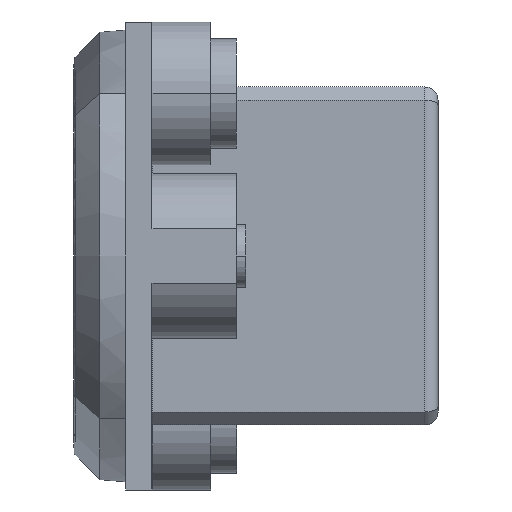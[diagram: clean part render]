
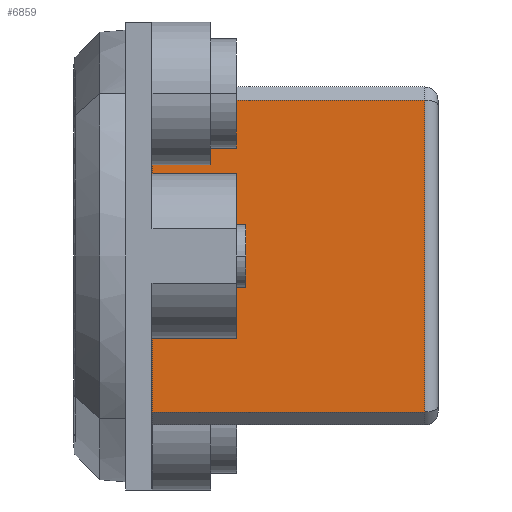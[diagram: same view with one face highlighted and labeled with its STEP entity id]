
A CAD part, left-side view. The second image highlights one B-rep face of the part: STEP entity #6859.
In plain terms, the highlighted planar face has unit normal (-1, 0, 0).
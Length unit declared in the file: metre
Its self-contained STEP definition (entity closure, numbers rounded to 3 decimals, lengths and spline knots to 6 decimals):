
#2388=DIRECTION('',(0.,1.,0.));
#2389=VECTOR('',#2388,0.021);
#2390=CARTESIAN_POINT('',(-0.0245,-0.027,-0.012));
#2391=LINE('',#2390,#2389);
#2392=DIRECTION('',(0.,0.,1.));
#2393=VECTOR('',#2392,0.024);
#2394=CARTESIAN_POINT('',(-0.0245,-0.006,-0.012));
#2395=LINE('',#2394,#2393);
#2396=DIRECTION('',(0.,-1.,0.));
#2397=VECTOR('',#2396,0.021);
#2398=CARTESIAN_POINT('',(-0.0245,-0.006,0.012));
#2399=LINE('',#2398,#2397);
#2454=DIRECTION('',(0.,0.,1.));
#2455=VECTOR('',#2454,0.024);
#2456=CARTESIAN_POINT('',(-0.0245,-0.027,-0.012));
#2457=LINE('',#2456,#2455);
#3486=CARTESIAN_POINT('',(-0.0245,-0.027,-0.012));
#3487=VERTEX_POINT('',#3486);
#3519=CARTESIAN_POINT('',(-0.0245,-0.006,0.012));
#3520=VERTEX_POINT('',#3519);
#3521=CARTESIAN_POINT('',(-0.0245,-0.006,-0.012));
#3522=VERTEX_POINT('',#3521);
#3591=CARTESIAN_POINT('',(-0.0245,-0.027,0.012));
#3592=VERTEX_POINT('',#3591);
#6846=CARTESIAN_POINT('',(-0.0245,-0.0165,0.));
#6847=DIRECTION('',(1.,0.,0.));
#6848=DIRECTION('',(0.,0.,1.));
#6849=AXIS2_PLACEMENT_3D('',#6846,#6847,#6848);
#6850=PLANE('',#6849);
#6852=ORIENTED_EDGE('',*,*,#6851,.T.);
#6853=ORIENTED_EDGE('',*,*,#5358,.T.);
#6854=ORIENTED_EDGE('',*,*,#6837,.T.);
#6856=ORIENTED_EDGE('',*,*,#6855,.F.);
#6857=EDGE_LOOP('',(#6852,#6853,#6854,#6856));
#6858=FACE_OUTER_BOUND('',#6857,.F.);
#6859=ADVANCED_FACE('',(#6858),#6850,.F.);
#5358=EDGE_CURVE('',#3522,#3520,#2395,.T.);
#6837=EDGE_CURVE('',#3520,#3592,#2399,.T.);
#6851=EDGE_CURVE('',#3487,#3522,#2391,.T.);
#6855=EDGE_CURVE('',#3487,#3592,#2457,.T.);
